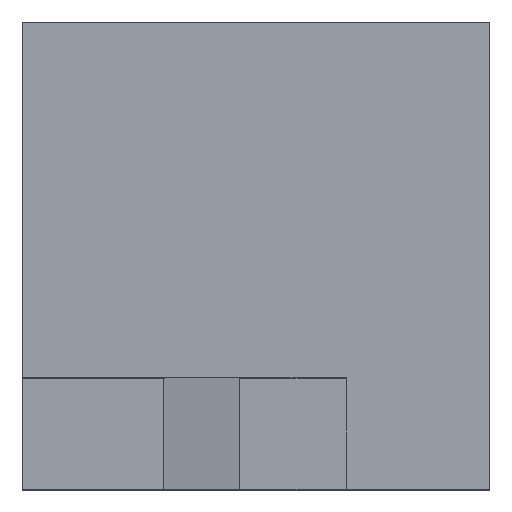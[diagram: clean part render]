
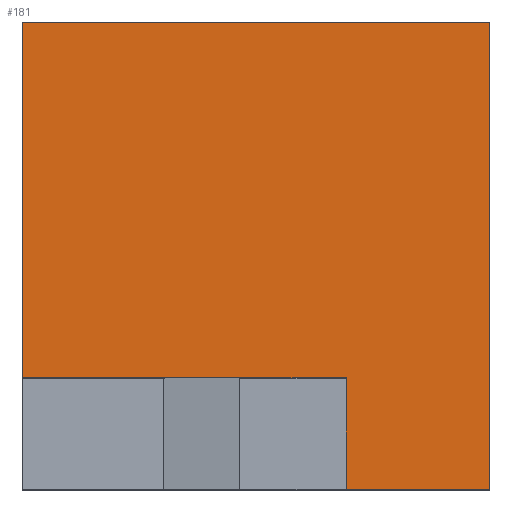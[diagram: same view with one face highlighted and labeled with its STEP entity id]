
A CAD part, top view. The second image highlights one B-rep face of the part: STEP entity #181.
In plain terms, the highlighted planar face has unit normal (0, 0, 1).
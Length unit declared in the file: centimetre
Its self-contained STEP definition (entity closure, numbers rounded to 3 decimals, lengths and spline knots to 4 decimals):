
#8 = LINE ( 'NONE', #394, #202 ) ;
#17 = EDGE_CURVE ( 'NONE', #47, #323, #8, .T. ) ;
#27 = CARTESIAN_POINT ( 'NONE',  ( 0., 0., 1000. ) ) ;
#47 = VERTEX_POINT ( 'NONE', #450 ) ;
#59 = CARTESIAN_POINT ( 'NONE',  ( 0., 1000., 1000. ) ) ;
#91 = LINE ( 'NONE', #353, #521 ) ;
#94 = ORIENTED_EDGE ( 'NONE', *, *, #861, .T. ) ;
#98 = CARTESIAN_POINT ( 'NONE',  ( 0., 0., 1000. ) ) ;
#101 = DIRECTION ( 'NONE',  ( 0., 1., 0. ) ) ;
#113 = DIRECTION ( 'NONE',  ( 0., 0., 1. ) ) ;
#167 = PLANE ( 'NONE',  #380 ) ;
#179 = CARTESIAN_POINT ( 'NONE',  ( 0., 1000., 1000. ) ) ;
#181 = ADVANCED_FACE ( 'NONE', ( #548 ), #167, .T. ) ;
#202 = VECTOR ( 'NONE', #788, 100. ) ;
#217 = CARTESIAN_POINT ( 'NONE',  ( 692.8986, 0., 1000. ) ) ;
#253 = DIRECTION ( 'NONE',  ( 0., -1., 0. ) ) ;
#258 = VECTOR ( 'NONE', #101, 100. ) ;
#274 = VERTEX_POINT ( 'NONE', #503 ) ;
#286 = DIRECTION ( 'NONE',  ( 0., 1., 0. ) ) ;
#291 = CARTESIAN_POINT ( 'NONE',  ( 1000., 0., 1000. ) ) ;
#323 = VERTEX_POINT ( 'NONE', #59 ) ;
#339 = CARTESIAN_POINT ( 'NONE',  ( 692.8986, 238.3628, 1000. ) ) ;
#353 = CARTESIAN_POINT ( 'NONE',  ( 1000., 1000., 1000. ) ) ;
#358 = VERTEX_POINT ( 'NONE', #707 ) ;
#375 = ORIENTED_EDGE ( 'NONE', *, *, #17, .T. ) ;
#380 = AXIS2_PLACEMENT_3D ( 'NONE', #98, #113, #412 ) ;
#394 = CARTESIAN_POINT ( 'NONE',  ( 0., 1000., 1000. ) ) ;
#412 = DIRECTION ( 'NONE',  ( 1., 0., 0. ) ) ;
#424 = VECTOR ( 'NONE', #530, 100. ) ;
#431 = EDGE_LOOP ( 'NONE', ( #761, #486, #624, #94, #375, #529 ) ) ;
#450 = CARTESIAN_POINT ( 'NONE',  ( 1000., 1000., 1000. ) ) ;
#465 = VECTOR ( 'NONE', #547, 100. ) ;
#486 = ORIENTED_EDGE ( 'NONE', *, *, #824, .F. ) ;
#503 = CARTESIAN_POINT ( 'NONE',  ( 692.8986, 238.3628, 1000. ) ) ;
#521 = VECTOR ( 'NONE', #286, 100. ) ;
#522 = EDGE_CURVE ( 'NONE', #323, #358, #667, .T. ) ;
#529 = ORIENTED_EDGE ( 'NONE', *, *, #522, .T. ) ;
#530 = DIRECTION ( 'NONE',  ( -1., 0., 0. ) ) ;
#541 = VERTEX_POINT ( 'NONE', #291 ) ;
#547 = DIRECTION ( 'NONE',  ( 1., 0., 0. ) ) ;
#548 = FACE_OUTER_BOUND ( 'NONE', #431, .T. ) ;
#557 = CARTESIAN_POINT ( 'NONE',  ( 692.8986, 0., 1000. ) ) ;
#624 = ORIENTED_EDGE ( 'NONE', *, *, #751, .T. ) ;
#667 = LINE ( 'NONE', #179, #683 ) ;
#683 = VECTOR ( 'NONE', #253, 100. ) ;
#706 = EDGE_CURVE ( 'NONE', #274, #358, #800, .T. ) ;
#707 = CARTESIAN_POINT ( 'NONE',  ( 0., 238.3628, 1000. ) ) ;
#751 = EDGE_CURVE ( 'NONE', #825, #541, #823, .T. ) ;
#758 = LINE ( 'NONE', #217, #258 ) ;
#761 = ORIENTED_EDGE ( 'NONE', *, *, #706, .F. ) ;
#788 = DIRECTION ( 'NONE',  ( -1., 0., 0. ) ) ;
#800 = LINE ( 'NONE', #339, #424 ) ;
#823 = LINE ( 'NONE', #27, #465 ) ;
#824 = EDGE_CURVE ( 'NONE', #825, #274, #758, .T. ) ;
#825 = VERTEX_POINT ( 'NONE', #557 ) ;
#861 = EDGE_CURVE ( 'NONE', #541, #47, #91, .T. ) ;
